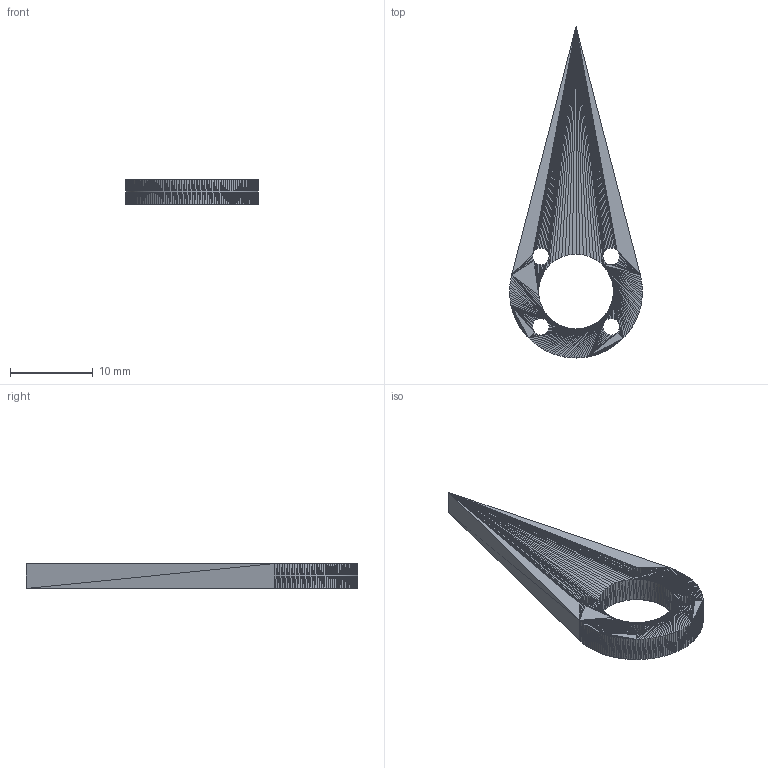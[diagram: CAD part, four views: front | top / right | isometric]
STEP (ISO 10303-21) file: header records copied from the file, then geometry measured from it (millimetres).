
FILE_DESCRIPTION((''),'2;1');
FILE_NAME('TEARDROP_HORN_PLATE','2026-09-08T00:00:00',('claude'),(''),'','','');
FILE_SCHEMA(('AUTOMOTIVE_DESIGN'));
Length unit declared in the file: millimetre
Products named in the file (1): TEARDROP_HORN_PLATE
Bounding box: 16 x 40 x 3 mm (x, y, z)
Volume: 865.6 mm3; surface area: 1010.6 mm2
Topology: 1 solids, 1 shells, 1176 faces, 1764 edges, 580 vertices
Faces by surface type: plane 1176
Entity records: 22933 total; most frequent: DIRECTION 4118, ORIENTED_EDGE 3528, CARTESIAN_POINT 3521, VECTOR 1764, LINE 1764, EDGE_CURVE 1764, AXIS2_PLACEMENT_3D 1177, PLANE 1176
